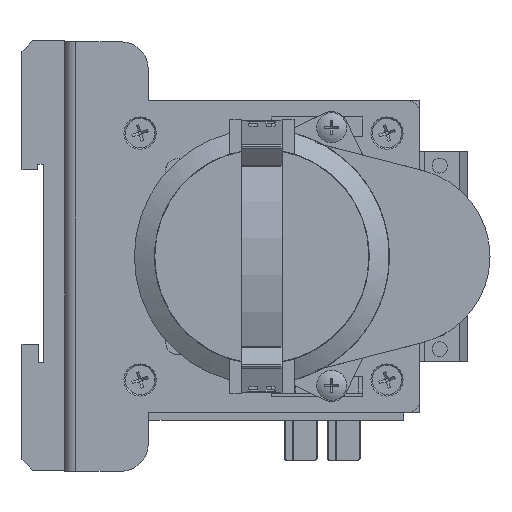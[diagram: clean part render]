
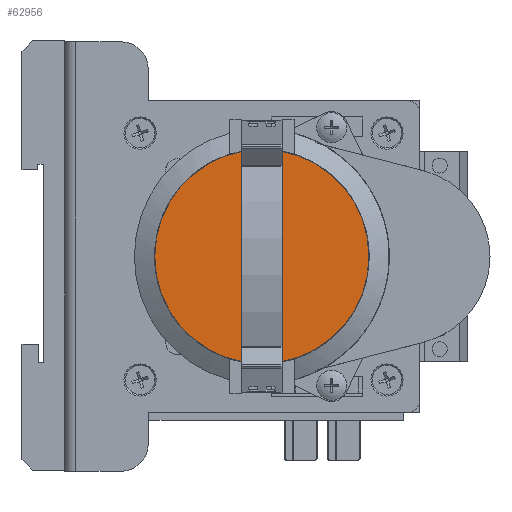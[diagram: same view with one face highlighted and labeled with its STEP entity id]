
A CAD part, left-side view. The second image highlights one B-rep face of the part: STEP entity #62956.
In plain terms, the highlighted planar face has unit normal (-1, 0, 0).
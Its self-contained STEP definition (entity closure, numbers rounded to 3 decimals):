
#4668=LINE('',#104136,#10026);
#4672=LINE('',#104145,#10030);
#4673=LINE('',#104149,#10031);
#4674=LINE('',#104153,#10032);
#4684=LINE('',#104177,#10042);
#4759=LINE('',#104376,#10117);
#4778=LINE('',#104419,#10136);
#4779=LINE('',#104420,#10137);
#10026=VECTOR('',#85700,10.);
#10030=VECTOR('',#85706,10.);
#10031=VECTOR('',#85709,10.);
#10032=VECTOR('',#85714,10.);
#10042=VECTOR('',#85730,10.);
#10117=VECTOR('',#85921,10.);
#10136=VECTOR('',#85968,10.);
#10137=VECTOR('',#85969,10.);
#12587=FACE_BOUND('',#19291,.T.);
#12588=FACE_BOUND('',#19292,.T.);
#15605=FACE_OUTER_BOUND('',#19290,.T.);
#19290=EDGE_LOOP('',(#53362));
#19291=EDGE_LOOP('',(#53363,#53364,#53365,#53366));
#19292=EDGE_LOOP('',(#53367,#53368,#53369,#53370));
#22768=CIRCLE('',#69321,19.95);
#28067=VERTEX_POINT('',#104134);
#28068=VERTEX_POINT('',#104135);
#28071=VERTEX_POINT('',#104143);
#28072=VERTEX_POINT('',#104144);
#28073=VERTEX_POINT('',#104146);
#28074=VERTEX_POINT('',#104148);
#28075=VERTEX_POINT('',#104152);
#28152=VERTEX_POINT('',#104375);
#28317=VERTEX_POINT('',#105677);
#36401=EDGE_CURVE('',#28067,#28068,#4668,.T.);
#36405=EDGE_CURVE('',#28071,#28072,#4672,.T.);
#36407=EDGE_CURVE('',#28074,#28073,#4673,.T.);
#36409=EDGE_CURVE('',#28075,#28071,#4674,.T.);
#36422=EDGE_CURVE('',#28073,#28067,#4684,.T.);
#36521=EDGE_CURVE('',#28152,#28075,#4759,.T.);
#36543=EDGE_CURVE('',#28072,#28152,#4778,.T.);
#36544=EDGE_CURVE('',#28068,#28074,#4779,.T.);
#36784=EDGE_CURVE('',#28317,#28317,#22768,.T.);
#53362=ORIENTED_EDGE('',*,*,#36784,.T.);
#53363=ORIENTED_EDGE('',*,*,#36409,.T.);
#53364=ORIENTED_EDGE('',*,*,#36405,.T.);
#53365=ORIENTED_EDGE('',*,*,#36543,.T.);
#53366=ORIENTED_EDGE('',*,*,#36521,.T.);
#53367=ORIENTED_EDGE('',*,*,#36422,.T.);
#53368=ORIENTED_EDGE('',*,*,#36401,.T.);
#53369=ORIENTED_EDGE('',*,*,#36544,.T.);
#53370=ORIENTED_EDGE('',*,*,#36407,.T.);
#56577=PLANE('',#69320);
#62956=ADVANCED_FACE('',(#15605,#12587,#12588),#56577,.T.);
#69320=AXIS2_PLACEMENT_3D('',#105676,#86617,#86618);
#69321=AXIS2_PLACEMENT_3D('',#105678,#86619,#86620);
#85700=DIRECTION('',(0.,-1.,0.));
#85706=DIRECTION('',(0.,-1.,0.));
#85709=DIRECTION('',(0.,1.,0.));
#85714=DIRECTION('',(0.,0.,1.));
#85730=DIRECTION('',(0.,0.,1.));
#85921=DIRECTION('',(0.,1.,0.));
#85968=DIRECTION('',(0.,0.,-1.));
#85969=DIRECTION('',(0.,0.,-1.));
#86617=DIRECTION('center_axis',(-1.,0.,0.));
#86618=DIRECTION('ref_axis',(0.,0.,
1.));
#86619=DIRECTION('center_axis',(-1.,0.,0.));
#86620=DIRECTION('ref_axis',(0.,0.,
1.));
#104134=CARTESIAN_POINT('',(-61.4,-32.94,17.015));
#104135=CARTESIAN_POINT('',(-61.4,-40.44,17.015));
#104136=CARTESIAN_POINT('',(-61.4,-36.69,17.015));
#104143=CARTESIAN_POINT('',(-61.4,-32.94,-16.728));
#104144=CARTESIAN_POINT('',(-61.4,-40.44,-16.728));
#104145=CARTESIAN_POINT('',(-61.4,-36.69,-16.728));
#104146=CARTESIAN_POINT('',(-61.4,-32.94,16.728));
#104148=CARTESIAN_POINT('',(-61.4,-40.44,16.728));
#104149=CARTESIAN_POINT('',(-61.4,-36.69,16.728));
#104152=CARTESIAN_POINT('',(-61.4,-32.94,-17.015));
#104153=CARTESIAN_POINT('',(-61.4,-32.94,0.));
#104177=CARTESIAN_POINT('',(-61.4,-32.94,0.));
#104375=CARTESIAN_POINT('',(-61.4,-40.44,-17.015));
#104376=CARTESIAN_POINT('',(-61.4,-36.69,-17.015));
#104419=CARTESIAN_POINT('',(-61.4,-40.44,0.));
#104420=CARTESIAN_POINT('',(-61.4,-40.44,0.));
#105676=CARTESIAN_POINT('Origin',(-61.4,-36.69,0.));
#105677=CARTESIAN_POINT('',(-61.4,-36.69,-19.95));
#105678=CARTESIAN_POINT('Origin',(-61.4,-36.69,0.));
